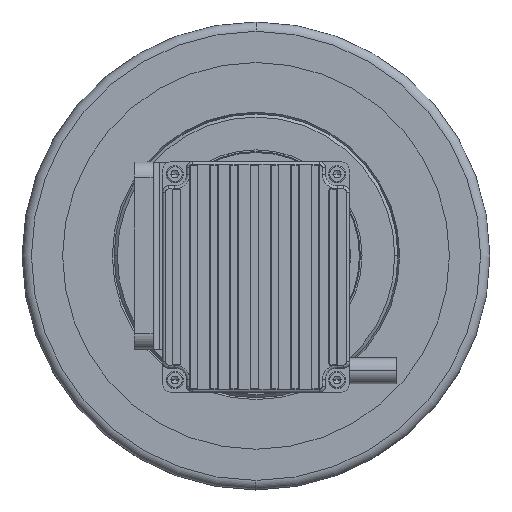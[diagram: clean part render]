
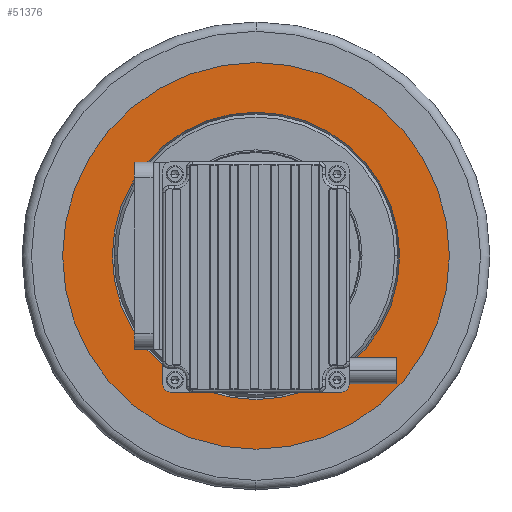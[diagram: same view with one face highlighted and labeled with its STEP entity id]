
A CAD part, top view. The second image highlights one B-rep face of the part: STEP entity #51376.
In plain terms, the highlighted planar face has unit normal (0, 0, 1).
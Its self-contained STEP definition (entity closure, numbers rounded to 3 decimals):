
#1903 = CARTESIAN_POINT ( 'NONE',  ( 0., 98.745, 40.028 ) ) ;
#2417 = AXIS2_PLACEMENT_3D ( 'NONE', #108284, #99859, #59121 ) ;
#3390 = DIRECTION ( 'NONE',  ( 0., 0., -1. ) ) ;
#6100 = EDGE_CURVE ( 'NONE', #61679, #117214, #71240, .T. ) ;
#7225 = AXIS2_PLACEMENT_3D ( 'NONE', #44192, #3390, #53904 ) ;
#8662 = DIRECTION ( 'NONE',  ( 0., 1., 0. ) ) ;
#13710 = ORIENTED_EDGE ( 'NONE', *, *, #21412, .T. ) ;
#16660 = EDGE_LOOP ( 'NONE', ( #64471, #112122 ) ) ;
#20502 = CARTESIAN_POINT ( 'NONE',  ( 0., 98.745, 40.028 ) ) ;
#21412 = EDGE_CURVE ( 'NONE', #98502, #61679, #55699, .T. ) ;
#24204 = DIRECTION ( 'NONE',  ( 0., 1., 0. ) ) ;
#26819 = FACE_BOUND ( 'NONE', #42423, .T. ) ;
#35090 = EDGE_CURVE ( 'NONE', #89832, #112259, #35979, .T. ) ;
#35979 = CIRCLE ( 'NONE', #108301, 62. ) ;
#38478 = CARTESIAN_POINT ( 'NONE',  ( 0., 98.745, 40.028 ) ) ;
#42423 = EDGE_LOOP ( 'NONE', ( #13710, #106082, #58837 ) ) ;
#44192 = CARTESIAN_POINT ( 'NONE',  ( 0., 98.745, 40.028 ) ) ;
#51376 = ADVANCED_FACE ( 'NONE', ( #26819, #77938 ), #56624, .F. ) ;
#53904 = DIRECTION ( 'NONE',  ( 0., 1., 0. ) ) ;
#55699 = CIRCLE ( 'NONE', #80434, 46.077 ) ;
#56624 = PLANE ( 'NONE',  #96042 ) ;
#58837 = ORIENTED_EDGE ( 'NONE', *, *, #116564, .T. ) ;
#59121 = DIRECTION ( 'NONE',  ( 0., -1., 0. ) ) ;
#61679 = VERTEX_POINT ( 'NONE', #124203 ) ;
#61772 = CARTESIAN_POINT ( 'NONE',  ( 0., 160.745, 40.028 ) ) ;
#63052 = CIRCLE ( 'NONE', #7225, 62. ) ;
#64471 = ORIENTED_EDGE ( 'NONE', *, *, #35090, .F. ) ;
#64951 = CARTESIAN_POINT ( 'NONE',  ( 0., 98.745, 40.028 ) ) ;
#70333 = DIRECTION ( 'NONE',  ( 0., 0., -1. ) ) ;
#71240 = CIRCLE ( 'NONE', #120825, 46.077 ) ;
#71800 = CARTESIAN_POINT ( 'NONE',  ( 0., 36.745, 40.028 ) ) ;
#77938 = FACE_OUTER_BOUND ( 'NONE', #16660, .T. ) ;
#79392 = DIRECTION ( 'NONE',  ( 0., -1., 0. ) ) ;
#80434 = AXIS2_PLACEMENT_3D ( 'NONE', #64951, #84366, #24204 ) ;
#80861 = DIRECTION ( 'NONE',  ( 0., 0., -1. ) ) ;
#84366 = DIRECTION ( 'NONE',  ( 0., 0., -1. ) ) ;
#88284 = DIRECTION ( 'NONE',  ( 0., 0., -1. ) ) ;
#89832 = VERTEX_POINT ( 'NONE', #71800 ) ;
#96042 = AXIS2_PLACEMENT_3D ( 'NONE', #38478, #88284, #8662 ) ;
#98502 = VERTEX_POINT ( 'NONE', #125816 ) ;
#99859 = DIRECTION ( 'NONE',  ( 0., 0., -1. ) ) ;
#106082 = ORIENTED_EDGE ( 'NONE', *, *, #6100, .T. ) ;
#108284 = CARTESIAN_POINT ( 'NONE',  ( 0., 98.745, 40.028 ) ) ;
#108301 = AXIS2_PLACEMENT_3D ( 'NONE', #20502, #70333, #79392 ) ;
#112122 = ORIENTED_EDGE ( 'NONE', *, *, #120531, .F. ) ;
#112259 = VERTEX_POINT ( 'NONE', #61772 ) ;
#114063 = CIRCLE ( 'NONE', #2417, 46.077 ) ;
#116564 = EDGE_CURVE ( 'NONE', #117214, #98502, #114063, .T. ) ;
#117214 = VERTEX_POINT ( 'NONE', #122808 ) ;
#120339 = DIRECTION ( 'NONE',  ( 0., -1., 0. ) ) ;
#120531 = EDGE_CURVE ( 'NONE', #112259, #89832, #63052, .T. ) ;
#120825 = AXIS2_PLACEMENT_3D ( 'NONE', #1903, #80861, #120339 ) ;
#122808 = CARTESIAN_POINT ( 'NONE',  ( -46.077, 98.745, 40.028 ) ) ;
#124203 = CARTESIAN_POINT ( 'NONE',  ( 0., 52.668, 40.028 ) ) ;
#125816 = CARTESIAN_POINT ( 'NONE',  ( 0., 144.823, 40.028 ) ) ;
